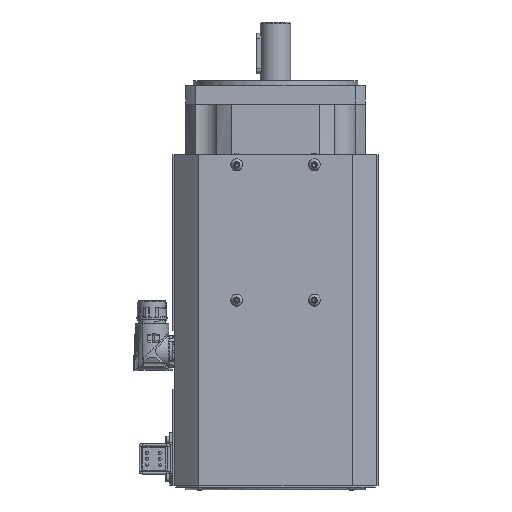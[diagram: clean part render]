
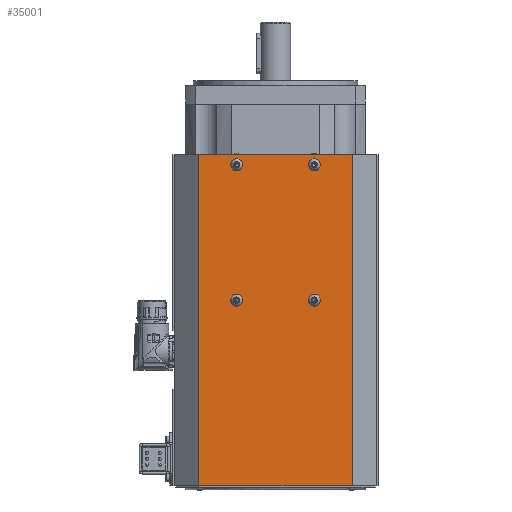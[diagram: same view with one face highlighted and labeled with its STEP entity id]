
A CAD part, left-side view. The second image highlights one B-rep face of the part: STEP entity #35001.
In plain terms, the highlighted planar face has unit normal (-1, 0, 0).
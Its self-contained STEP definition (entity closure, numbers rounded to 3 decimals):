
#3839=LINE('',#68129,#5574);
#3860=LINE('',#68169,#5595);
#3927=LINE('',#68311,#5662);
#3930=LINE('',#68318,#5665);
#5574=VECTOR('',#47186,121.594);
#5595=VECTOR('',#47209,121.594);
#5662=VECTOR('',#47358,262.);
#5665=VECTOR('',#47369,262.);
#8495=FACE_BOUND('',#13197,.T.);
#8496=FACE_BOUND('',#13198,.T.);
#8497=FACE_BOUND('',#13199,.T.);
#8498=FACE_BOUND('',#13200,.T.);
#8499=FACE_BOUND('',#13201,.T.);
#13197=EDGE_LOOP('',(#31571));
#13198=EDGE_LOOP('',(#31572));
#13199=EDGE_LOOP('',(#31573));
#13200=EDGE_LOOP('',(#31574));
#13201=EDGE_LOOP('',(#31575,#31576,#31577,#31578));
#14735=CIRCLE('',#38196,4.75);
#14749=CIRCLE('',#38231,4.75);
#14763=CIRCLE('',#38266,4.75);
#14777=CIRCLE('',#38301,4.75);
#17750=VERTEX_POINT('',#66874);
#17770=VERTEX_POINT('',#66959);
#17790=VERTEX_POINT('',#67044);
#17810=VERTEX_POINT('',#67129);
#18060=VERTEX_POINT('',#68126);
#18061=VERTEX_POINT('',#68128);
#18078=VERTEX_POINT('',#68166);
#18079=VERTEX_POINT('',#68168);
#22064=EDGE_CURVE('',#17750,#17750,#14735,.T.);
#22096=EDGE_CURVE('',#17770,#17770,#14749,.T.);
#22128=EDGE_CURVE('',#17790,#17790,#14763,.T.);
#22160=EDGE_CURVE('',#17810,#17810,#14777,.T.);
#22539=EDGE_CURVE('',#18061,#18060,#3839,.T.);
#22560=EDGE_CURVE('',#18078,#18079,#3860,.T.);
#22631=EDGE_CURVE('',#18079,#18060,#3927,.T.);
#22634=EDGE_CURVE('',#18078,#18061,#3930,.T.);
#31571=ORIENTED_EDGE('',*,*,#22064,.T.);
#31572=ORIENTED_EDGE('',*,*,#22096,.T.);
#31573=ORIENTED_EDGE('',*,*,#22128,.T.);
#31574=ORIENTED_EDGE('',*,*,#22160,.T.);
#31575=ORIENTED_EDGE('',*,*,#22560,.F.);
#31576=ORIENTED_EDGE('',*,*,#22634,.T.);
#31577=ORIENTED_EDGE('',*,*,#22539,.T.);
#31578=ORIENTED_EDGE('',*,*,#22631,.F.);
#32997=PLANE('',#38620);
#35001=ADVANCED_FACE('',(#8495,#8496,#8497,#8498,#8499),#32997,.T.);
#38196=AXIS2_PLACEMENT_3D('',#66875,#46167,#46168);
#38231=AXIS2_PLACEMENT_3D('',#66960,#46249,#46250);
#38266=AXIS2_PLACEMENT_3D('',#67045,#46331,#46332);
#38301=AXIS2_PLACEMENT_3D('',#67130,#46413,#46414);
#38620=AXIS2_PLACEMENT_3D('',#68319,#47370,#47371);
#46167=DIRECTION('center_axis',(1.,0.,0.));
#46168=DIRECTION('ref_axis',(0.,0.,-1.));
#46249=DIRECTION('center_axis',(1.,0.,0.));
#46250=DIRECTION('ref_axis',(0.,0.,-1.));
#46331=DIRECTION('center_axis',(1.,0.,0.));
#46332=DIRECTION('ref_axis',(0.,0.,-1.));
#46413=DIRECTION('center_axis',(1.,0.,0.));
#46414=DIRECTION('ref_axis',(0.,0.,-1.));
#47186=DIRECTION('',(0.,-1.,0.));
#47209=DIRECTION('',(0.,-1.,0.));
#47358=DIRECTION('',(0.,0.,-1.));
#47369=DIRECTION('',(0.,0.,-1.));
#47370=DIRECTION('center_axis',(-1.,0.,0.));
#47371=DIRECTION('ref_axis',(0.,1.,0.));
#66874=CARTESIAN_POINT('',(-80.2,30.65,-43.25));
#66875=CARTESIAN_POINT('Origin',(-80.2,30.65,-48.));
#66959=CARTESIAN_POINT('',(-80.2,30.65,-150.25));
#66960=CARTESIAN_POINT('Origin',(-80.2,30.65,-155.));
#67044=CARTESIAN_POINT('',(-80.2,-30.65,-43.25));
#67045=CARTESIAN_POINT('Origin',(-80.2,-30.65,-48.));
#67129=CARTESIAN_POINT('',(-80.2,-30.65,-150.25));
#67130=CARTESIAN_POINT('Origin',(-80.2,-30.65,-155.));
#68126=CARTESIAN_POINT('',(-80.2,-60.797,-302.));
#68128=CARTESIAN_POINT('',(-80.2,60.797,-302.));
#68129=CARTESIAN_POINT('',(-80.2,-60.797,-302.));
#68166=CARTESIAN_POINT('',(-80.2,60.797,-40.));
#68168=CARTESIAN_POINT('',(-80.2,-60.797,-40.));
#68169=CARTESIAN_POINT('',(-80.2,60.797,-40.));
#68311=CARTESIAN_POINT('',(-80.2,-60.797,-40.));
#68318=CARTESIAN_POINT('',(-80.2,60.797,-40.));
#68319=CARTESIAN_POINT('Origin',(-80.2,0.,-40.));
